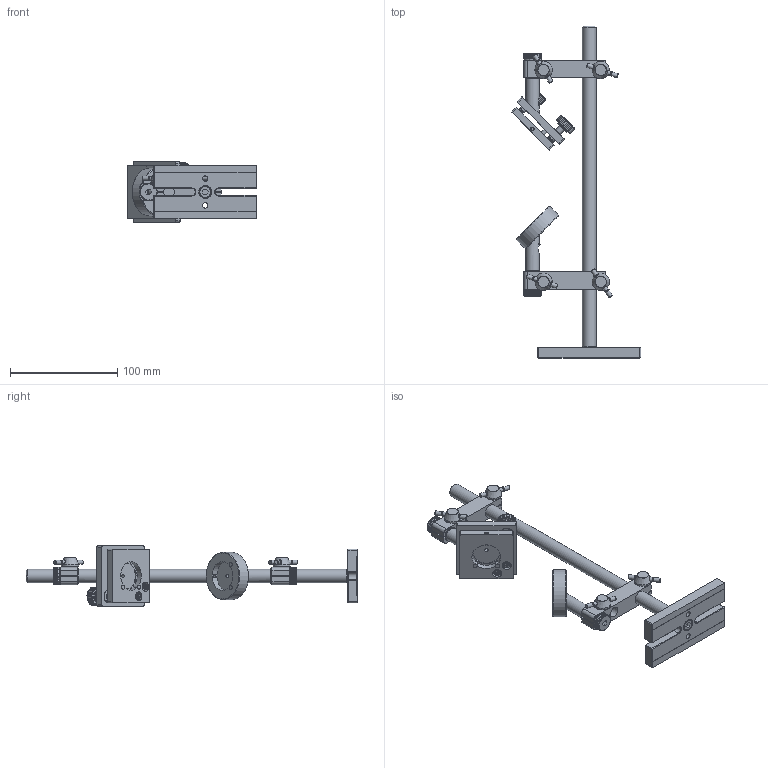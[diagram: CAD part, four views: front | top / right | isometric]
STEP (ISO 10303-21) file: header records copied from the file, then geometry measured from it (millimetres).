
FILE_DESCRIPTION (( 'STEP AP203' ), '1' );
FILE_NAME ('M-BSD-1.step', '2017-01-11T09:34:57', ( '¦K¬P' ), ( '' ), 'SwSTEP 2.0', 'SolidWorks 2012', '' );
FILE_SCHEMA (( 'CONFIG_CONTROL_DESIGN' ));
Length unit declared in the file: millimetre
Products named in the file (1): M-BSD-1
Bounding box: 120.65 x 309.5 x 56 mm (x, y, z)
Surface area: 66959.4 mm2 (no closed solid volume)
Topology: 0 solids, 72 shells, 726 faces, 2395 edges, 1615 vertices
Faces by surface type: cylinder 293, plane 258, torus 86, bspline 52, cone 32, sphere 5
Full cylindrical faces by diameter (mm): 0.77 x1, 1 x1, 3 x3, 3.3 x5, 3.454 x2, 3.5 x2, 4 x18, 4.2 x8, 4.3 x3, 5 x5, 5.105 x1, 6 x2, 6.6 x2, 8 x2, 8.5 x4, 10 x5, 11 x1, 12 x2, 12.7 x4, 16 x4, 24 x1, 44 x1
Entity records: 27756 total; most frequent: CARTESIAN_POINT 8014, DIRECTION 4196, ORIENTED_EDGE 3502, EDGE_CURVE 2237, AXIS2_PLACEMENT_3D 1626, VERTEX_POINT 1578, CIRCLE 951, EDGE_LOOP 947
